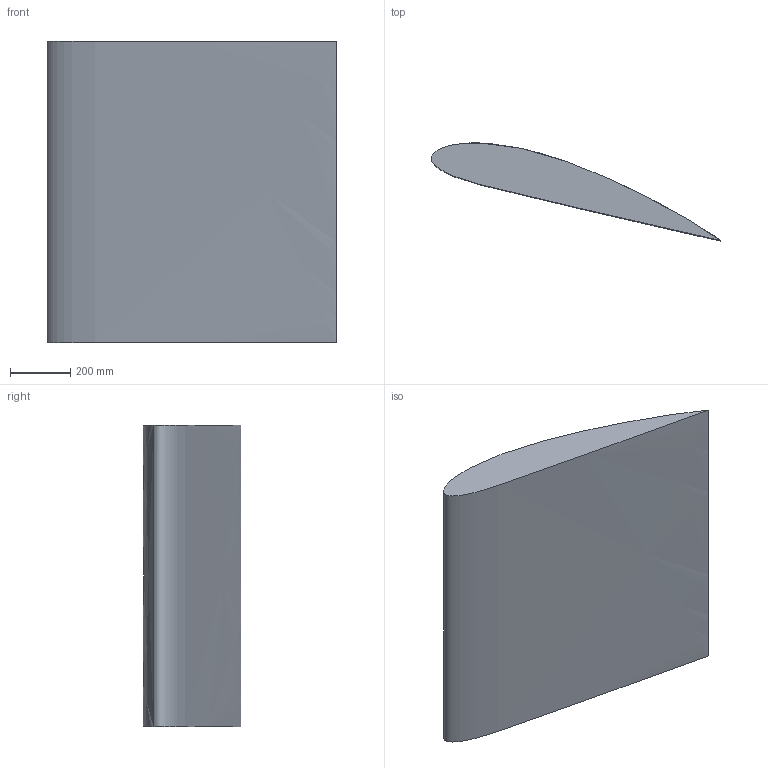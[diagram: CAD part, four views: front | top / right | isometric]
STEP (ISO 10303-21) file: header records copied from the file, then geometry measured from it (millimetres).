
FILE_DESCRIPTION (( 'STEP AP203' ), '1' );
FILE_NAME ('16 degree.STEP', '2018-12-17T17:01:10', ( '' ), ( '' ), 'SwSTEP 2.0', 'SolidWorks 2017', '' );
FILE_SCHEMA (( 'CONFIG_CONTROL_DESIGN' ));
Length unit declared in the file: millimetre
Products named in the file (1): 16 degree
Bounding box: 961.84 x 324.19 x 1000 mm (x, y, z)
Volume: 104287022.8 mm3; surface area: 2270041.8 mm2
Topology: 1 solids, 1 shells, 4 faces, 6 edges, 4 vertices
Faces by surface type: bspline 2, plane 2
Entity records: 559 total; most frequent: CARTESIAN_POINT 421, ORIENTED_EDGE 12, DIRECTION 8, PERSON_AND_ORGANIZATION 8, EDGE_CURVE 6, PERSON_AND_ORGANIZATION_ROLE 5, CALENDAR_DATE 5, LOCAL_TIME 5
